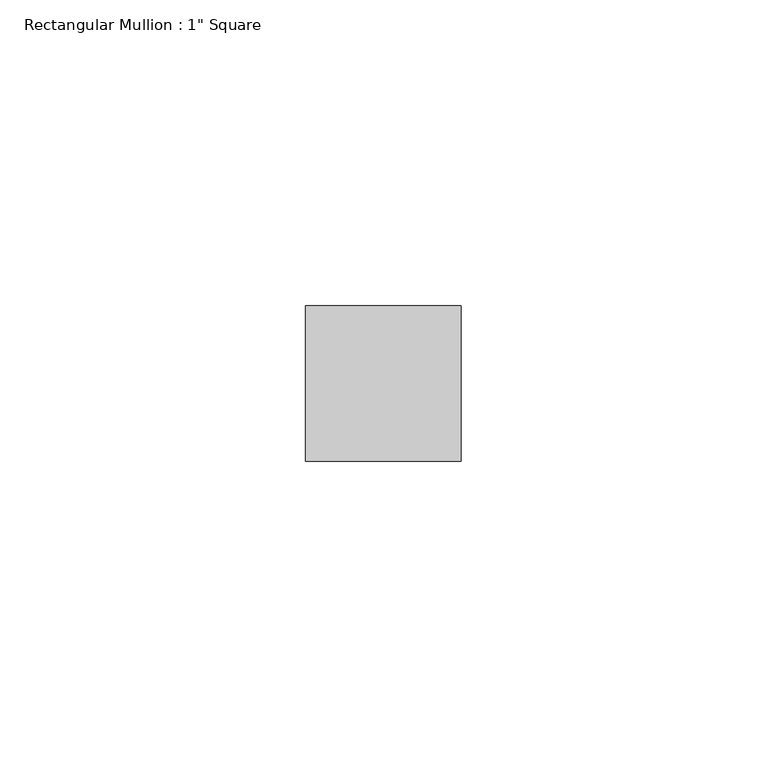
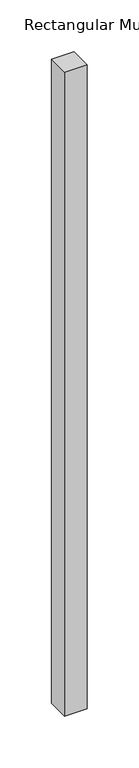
"""IFC4 building model written with IfcOpenShell, lengths in millimetres: member geometry."""

from ifc_helpers import new_model, si_unit, frame, origin, place, context, project, spatial, polyline, outline, extrude, source, transform, mapped, element, save


def member_fe320f98(model_context):
    return source(origin(), model_context, "Body", "SweptSolid", [
        extrude(outline(polyline([(12.7, 12.7), (12.7, -12.7), (-12.7, -12.7), (-12.7, 12.7), (12.7, 12.7)])), frame((0.0, 0.0, -761.3770887), z_axis=(0.0, 0.0, 1.0), x_axis=(1.0, 0.0, 0.0)), (0.0, 0.0, 1.0), 761.3770887),
    ])


if __name__ == "__main__":
    model = new_model("IFC4")
    model_context = context("Model", 3, world=origin())
    ifc_project = project(units=[si_unit("LENGTHUNIT", "METRE", prefix="MILLI")], contexts=[model_context])
    site = spatial("IfcSite", under=ifc_project)
    building = spatial("IfcBuilding", under=site)
    placement = place(None, origin())
    member_shape = member_fe320f98(model_context)
    element("IfcMember", 1, ObjectType="Rectangular Mullion : 1\" Square", at=placement, inside=building, context=model_context, shape_type="MappedRepresentation", body=[
        mapped(member_shape, transform((0.0, 0.0, 0.0), x_axis=(1.0, 0.0, 0.0), y_axis=(0.0, 1.0, 0.0), z_axis=(0.0, 0.0, 1.0))),
    ])
    save(model, "model.ifc")
